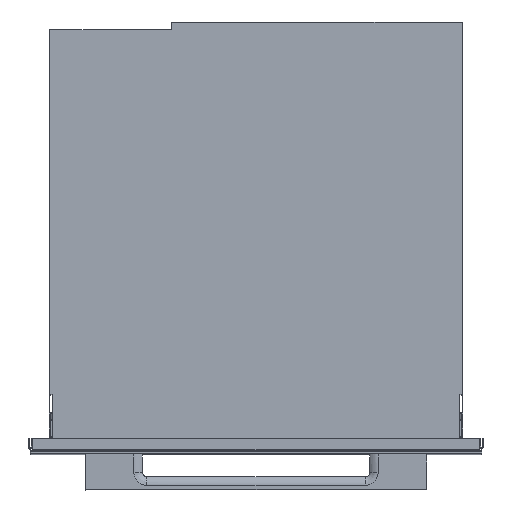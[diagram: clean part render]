
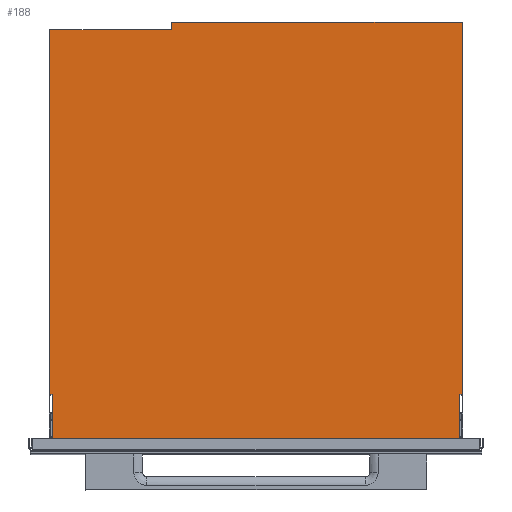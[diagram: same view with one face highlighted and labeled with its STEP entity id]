
A CAD part, top view. The second image highlights one B-rep face of the part: STEP entity #188.
In plain terms, the highlighted planar face has unit normal (0, 0, 1).
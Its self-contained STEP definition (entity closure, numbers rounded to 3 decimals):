
#188=ADVANCED_FACE('',(#520),#4963,.T.);
#520=FACE_OUTER_BOUND('',#852,.T.);
#852=EDGE_LOOP('',(#1319,#1320,#1321,#1322,#1323,#1324,#1325,#1326,#1327,
#1328));
#1319=ORIENTED_EDGE('',*,*,#2815,.T.);
#1320=ORIENTED_EDGE('',*,*,#2816,.T.);
#1321=ORIENTED_EDGE('',*,*,#2817,.T.);
#1322=ORIENTED_EDGE('',*,*,#2818,.T.);
#1323=ORIENTED_EDGE('',*,*,#2819,.T.);
#1324=ORIENTED_EDGE('',*,*,#2820,.T.);
#1325=ORIENTED_EDGE('',*,*,#2821,.T.);
#1326=ORIENTED_EDGE('',*,*,#2822,.T.);
#1327=ORIENTED_EDGE('',*,*,#2823,.T.);
#1328=ORIENTED_EDGE('',*,*,#2824,.T.);
#2815=EDGE_CURVE('',#4359,#4360,#3908,.T.);
#2816=EDGE_CURVE('',#4360,#4361,#3909,.T.);
#2817=EDGE_CURVE('',#4361,#4362,#3910,.T.);
#2818=EDGE_CURVE('',#4362,#4363,#3911,.T.);
#2819=EDGE_CURVE('',#4363,#4364,#3912,.T.);
#2820=EDGE_CURVE('',#4364,#4365,#3913,.T.);
#2821=EDGE_CURVE('',#4365,#4366,#3914,.T.);
#2822=EDGE_CURVE('',#4366,#4367,#3915,.T.);
#2823=EDGE_CURVE('',#4367,#4368,#3916,.T.);
#2824=EDGE_CURVE('',#4368,#4359,#3917,.T.);
#3908=B_SPLINE_CURVE_WITH_KNOTS('',1,(#7428,#7429),.UNSPECIFIED.,.F.,.F.,
(2,2),(-160.,0.),.UNSPECIFIED.);
#3909=B_SPLINE_CURVE_WITH_KNOTS('',1,(#7430,#7431),.UNSPECIFIED.,.F.,.F.,
(2,2),(-479.5,0.),.UNSPECIFIED.);
#3910=B_SPLINE_CURVE_WITH_KNOTS('',1,(#7432,#7433),.UNSPECIFIED.,.F.,.F.,
(2,2),(-3.,0.),.UNSPECIFIED.);
#3911=B_SPLINE_CURVE_WITH_KNOTS('',1,(#7434,#7435),.UNSPECIFIED.,.F.,.F.,
(2,2),(0.,58.),.UNSPECIFIED.);
#3912=B_SPLINE_CURVE_WITH_KNOTS('',1,(#7436,#7437),.UNSPECIFIED.,.F.,.F.,
(2,2),(0.,536.),.UNSPECIFIED.);
#3913=B_SPLINE_CURVE_WITH_KNOTS('',1,(#7438,#7439),.UNSPECIFIED.,.F.,.F.,
(2,2),(-58.,0.),.UNSPECIFIED.);
#3914=B_SPLINE_CURVE_WITH_KNOTS('',1,(#7440,#7441),.UNSPECIFIED.,.F.,.F.,
(2,2),(0.,3.),.UNSPECIFIED.);
#3915=B_SPLINE_CURVE_WITH_KNOTS('',1,(#7442,#7443),.UNSPECIFIED.,.F.,.F.,
(2,2),(0.,489.5),.UNSPECIFIED.);
#3916=B_SPLINE_CURVE_WITH_KNOTS('',1,(#7444,#7445),.UNSPECIFIED.,.F.,.F.,
(2,2),(-382.,0.),.UNSPECIFIED.);
#3917=B_SPLINE_CURVE_WITH_KNOTS('',1,(#7446,#7447),.UNSPECIFIED.,.F.,.F.,
(2,2),(-10.,0.),.UNSPECIFIED.);
#4359=VERTEX_POINT('',#7394);
#4360=VERTEX_POINT('',#7395);
#4361=VERTEX_POINT('',#7396);
#4362=VERTEX_POINT('',#7397);
#4363=VERTEX_POINT('',#7398);
#4364=VERTEX_POINT('',#7399);
#4365=VERTEX_POINT('',#7400);
#4366=VERTEX_POINT('',#7401);
#4367=VERTEX_POINT('',#7402);
#4368=VERTEX_POINT('',#7403);
#4963=PLANE('',#5155);
#5155=AXIS2_PLACEMENT_3D('',#7375,#5330,$);
#5330=DIRECTION('',(0.,0.,1.));
#7375=CARTESIAN_POINT('',(-325.212,-34.762,587.7));
#7394=CARTESIAN_POINT('',(-111.,557.5,587.7));
#7395=CARTESIAN_POINT('',(-271.,557.5,587.7));
#7396=CARTESIAN_POINT('',(-271.,78.,587.7));
#7397=CARTESIAN_POINT('',(-268.,78.,587.7));
#7398=CARTESIAN_POINT('',(-268.,20.,587.7));
#7399=CARTESIAN_POINT('',(268.,20.,587.7));
#7400=CARTESIAN_POINT('',(268.,78.,587.7));
#7401=CARTESIAN_POINT('',(271.,78.,587.7));
#7402=CARTESIAN_POINT('',(271.,567.5,587.7));
#7403=CARTESIAN_POINT('',(-111.,567.5,587.7));
#7428=CARTESIAN_POINT('',(-111.,557.5,587.7));
#7429=CARTESIAN_POINT('',(-271.,557.5,587.7));
#7430=CARTESIAN_POINT('',(-271.,557.5,587.7));
#7431=CARTESIAN_POINT('',(-271.,78.,587.7));
#7432=CARTESIAN_POINT('',(-271.,78.,587.7));
#7433=CARTESIAN_POINT('',(-268.,78.,587.7));
#7434=CARTESIAN_POINT('',(-268.,78.,587.7));
#7435=CARTESIAN_POINT('',(-268.,20.,587.7));
#7436=CARTESIAN_POINT('',(-268.,20.,587.7));
#7437=CARTESIAN_POINT('',(268.,20.,587.7));
#7438=CARTESIAN_POINT('',(268.,20.,587.7));
#7439=CARTESIAN_POINT('',(268.,78.,587.7));
#7440=CARTESIAN_POINT('',(268.,78.,587.7));
#7441=CARTESIAN_POINT('',(271.,78.,587.7));
#7442=CARTESIAN_POINT('',(271.,78.,587.7));
#7443=CARTESIAN_POINT('',(271.,567.5,587.7));
#7444=CARTESIAN_POINT('',(271.,567.5,587.7));
#7445=CARTESIAN_POINT('',(-111.,567.5,587.7));
#7446=CARTESIAN_POINT('',(-111.,567.5,587.7));
#7447=CARTESIAN_POINT('',(-111.,557.5,587.7));
